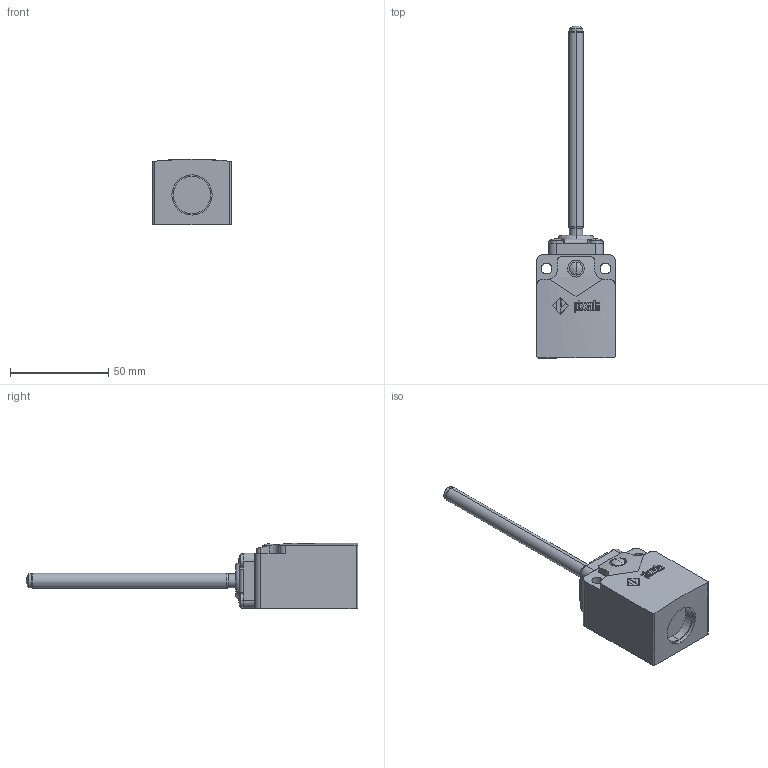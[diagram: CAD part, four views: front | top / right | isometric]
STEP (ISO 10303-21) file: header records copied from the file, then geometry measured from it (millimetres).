
FILE_DESCRIPTION (( 'STEP AP214' ), '1' );
FILE_NAME ('ZF_STEP_FC_x25.step', '2015-05-14T14:12:43', ( 'utente' ), ( 'Microsoft' ), 'SwSTEP 2.0', 'SolidWorks 2014', '' );
FILE_SCHEMA (( 'AUTOMOTIVE_DESIGN' ));
Length unit declared in the file: millimetre
Products named in the file (4): ZF_STEP_VF_T25; Pizzato_T25; Pizzato_Custodia_FC; ZF_STEP_FC_x25
Assembly tree (3 placements, depth 3):
  ZF_STEP_FC_x25
    Pizzato_Custodia_FC
    ZF_STEP_VF_T25
      Pizzato_T25
Bounding box: 40 x 169.13 x 33.4 mm (x, y, z)
Volume: 75583.9 mm3; surface area: 17975.2 mm2
Topology: 2 solids, 2 shells, 393 faces, 1032 edges, 684 vertices
Faces by surface type: plane 215, bspline 97, cylinder 64, sphere 11, torus 6
Entity records: 17221 total; most frequent: CARTESIAN_POINT 7977, ORIENTED_EDGE 2058, DIRECTION 1574, EDGE_CURVE 1029, VERTEX_POINT 682, VECTOR 602, LINE 602, AXIS2_PLACEMENT_3D 486
